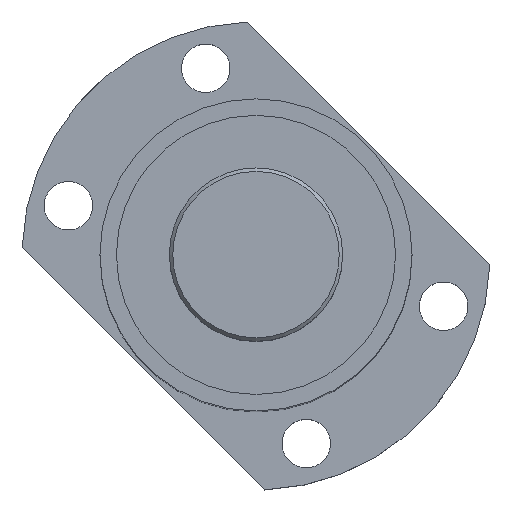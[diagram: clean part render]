
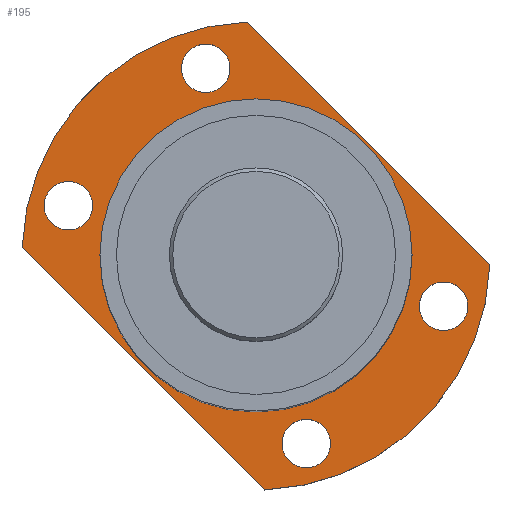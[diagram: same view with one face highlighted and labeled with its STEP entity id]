
A CAD part, top view. The second image highlights one B-rep face of the part: STEP entity #195.
In plain terms, the highlighted planar face has unit normal (0, 0, 1) as drawn and (1, 0, 0) by its records, which use the part's own axes.
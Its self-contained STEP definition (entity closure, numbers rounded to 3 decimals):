
#99=LINE('',#1196,#107);
#100=LINE('',#1201,#108);
#107=VECTOR('',#1015,1.);
#108=VECTOR('',#1018,1.);
#195=ADVANCED_FACE('',(#309,#310,#311,#312,#313,#314),#227,.F.);
#227=PLANE('',#824);
#309=FACE_BOUND('',#411,.T.);
#310=FACE_BOUND('',#412,.T.);
#311=FACE_BOUND('',#413,.T.);
#312=FACE_BOUND('',#414,.T.);
#313=FACE_BOUND('',#415,.T.);
#314=FACE_BOUND('',#416,.T.);
#411=EDGE_LOOP('',(#520));
#412=EDGE_LOOP('',(#521));
#413=EDGE_LOOP('',(#522,#523,#524,#525));
#414=EDGE_LOOP('',(#526));
#415=EDGE_LOOP('',(#527));
#416=EDGE_LOOP('',(#528));
#520=ORIENTED_EDGE('',*,*,#665,.F.);
#521=ORIENTED_EDGE('',*,*,#666,.F.);
#522=ORIENTED_EDGE('',*,*,#667,.F.);
#523=ORIENTED_EDGE('',*,*,#668,.F.);
#524=ORIENTED_EDGE('',*,*,#669,.F.);
#525=ORIENTED_EDGE('',*,*,#670,.F.);
#526=ORIENTED_EDGE('',*,*,#671,.F.);
#527=ORIENTED_EDGE('',*,*,#672,.F.);
#528=ORIENTED_EDGE('',*,*,#641,.F.);
#583=VERTEX_POINT('',#1128);
#607=VERTEX_POINT('',#1193);
#608=VERTEX_POINT('',#1195);
#609=VERTEX_POINT('',#1197);
#610=VERTEX_POINT('',#1198);
#611=VERTEX_POINT('',#1200);
#612=VERTEX_POINT('',#1202);
#613=VERTEX_POINT('',#1205);
#614=VERTEX_POINT('',#1207);
#641=EDGE_CURVE('',#583,#583,#703,.T.);
#665=EDGE_CURVE('',#607,#607,#725,.T.);
#666=EDGE_CURVE('',#608,#608,#726,.T.);
#667=EDGE_CURVE('',#609,#610,#99,.T.);
#668=EDGE_CURVE('',#611,#609,#727,.T.);
#669=EDGE_CURVE('',#612,#611,#100,.T.);
#670=EDGE_CURVE('',#610,#612,#728,.T.);
#671=EDGE_CURVE('',#613,#613,#729,.T.);
#672=EDGE_CURVE('',#614,#614,#730,.T.);
#703=CIRCLE('',#779,45.);
#725=CIRCLE('',#818,7.);
#726=CIRCLE('',#819,7.);
#727=CIRCLE('',#820,67.5);
#728=CIRCLE('',#821,67.5);
#729=CIRCLE('',#822,7.);
#730=CIRCLE('',#823,7.);
#779=AXIS2_PLACEMENT_3D('',#1127,#931,#932);
#818=AXIS2_PLACEMENT_3D('',#1192,#1011,#1012);
#819=AXIS2_PLACEMENT_3D('',#1194,#1013,#1014);
#820=AXIS2_PLACEMENT_3D('',#1199,#1016,#1017);
#821=AXIS2_PLACEMENT_3D('',#1203,#1019,#1020);
#822=AXIS2_PLACEMENT_3D('',#1204,#1021,#1022);
#823=AXIS2_PLACEMENT_3D('',#1206,#1023,#1024);
#824=AXIS2_PLACEMENT_3D('',#1208,#1025,#1026);
#931=DIRECTION('',(1.,0.,0.));
#932=DIRECTION('',(0.,0.,1.));
#1011=DIRECTION('',(1.,0.,0.));
#1012=DIRECTION('',(0.,0.707,0.707));
#1013=DIRECTION('',(1.,0.,0.));
#1014=DIRECTION('',(0.,0.707,0.707));
#1015=DIRECTION('',(0.,-0.707,-0.707));
#1016=DIRECTION('',(-1.,0.,0.));
#1017=DIRECTION('',(0.,0.707,0.707));
#1018=DIRECTION('',(0.,0.707,0.707));
#1019=DIRECTION('',(-1.,0.,0.));
#1020=DIRECTION('',(0.,0.707,0.707));
#1021=DIRECTION('',(1.,0.,0.));
#1022=DIRECTION('',(0.,0.707,0.707));
#1023=DIRECTION('',(1.,0.,0.));
#1024=DIRECTION('',(0.,0.707,0.707));
#1025=DIRECTION('',(-1.,0.,0.));
#1026=DIRECTION('',(0.,0.707,0.707));
#1127=CARTESIAN_POINT('',(2443.168,1106.175,0.));
#1128=CARTESIAN_POINT('',(2443.168,1106.175,45.));
#1192=CARTESIAN_POINT('',(2443.168,1160.267,14.494));
#1193=CARTESIAN_POINT('',(2443.168,1165.217,19.444));
#1194=CARTESIAN_POINT('',(2443.168,1091.682,-54.092));
#1195=CARTESIAN_POINT('',(2443.168,1096.631,-49.142));
#1196=CARTESIAN_POINT('',(2443.168,1138.702,-32.527));
#1197=CARTESIAN_POINT('',(2443.168,1173.633,2.403));
#1198=CARTESIAN_POINT('',(2443.168,1103.772,-67.457));
#1199=CARTESIAN_POINT('',(2443.168,1106.175,0.));
#1200=CARTESIAN_POINT('',(2443.168,1108.579,67.457));
#1201=CARTESIAN_POINT('',(2443.168,1073.648,32.527));
#1202=CARTESIAN_POINT('',(2443.168,1038.718,-2.403));
#1203=CARTESIAN_POINT('',(2443.168,1106.175,0.));
#1204=CARTESIAN_POINT('',(2443.168,1052.084,-14.494));
#1205=CARTESIAN_POINT('',(2443.168,1057.033,-9.544));
#1206=CARTESIAN_POINT('',(2443.168,1120.669,54.092));
#1207=CARTESIAN_POINT('',(2443.168,1125.619,59.042));
#1208=CARTESIAN_POINT('',(2443.168,1106.175,0.));
